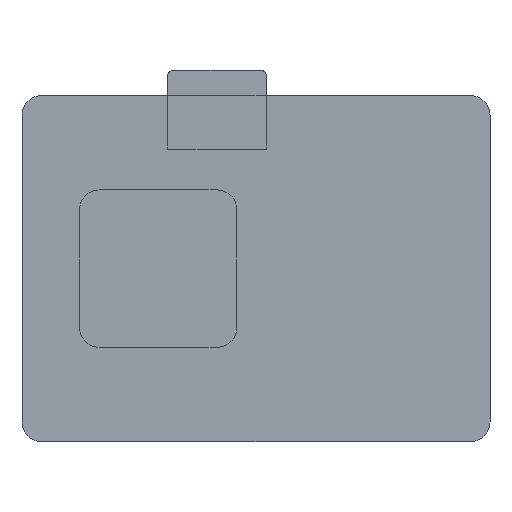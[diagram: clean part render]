
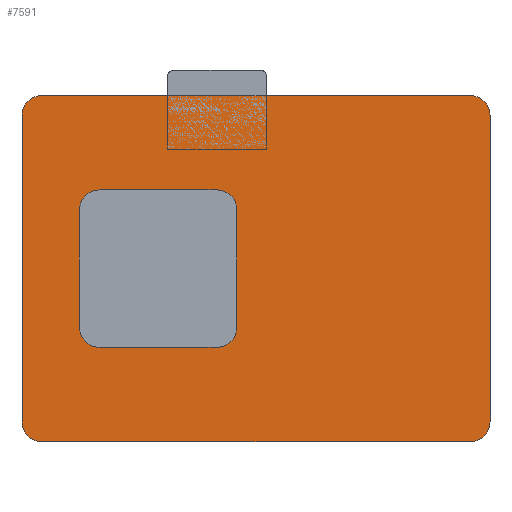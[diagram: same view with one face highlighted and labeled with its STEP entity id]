
A CAD part, front view. The second image highlights one B-rep face of the part: STEP entity #7591.
In plain terms, the highlighted planar face has unit normal (0, -1, 0).
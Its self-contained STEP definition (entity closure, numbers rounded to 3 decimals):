
#37 = DIRECTION ( 'NONE',  ( 0., 0., -1. ) ) ;
#269 = EDGE_CURVE ( 'NONE', #2303, #7224, #4383, .T. ) ;
#280 = CARTESIAN_POINT ( 'NONE',  ( 100.838, 76.5, -55.88 ) ) ;
#899 = CARTESIAN_POINT ( 'NONE',  ( 107.188, 76.5, -55.88 ) ) ;
#995 = DIRECTION ( 'NONE',  ( -1., 0., 0. ) ) ;
#1032 = LINE ( 'NONE', #7879, #2792 ) ;
#1044 = LINE ( 'NONE', #12854, #8911 ) ;
#1047 = EDGE_CURVE ( 'NONE', #2303, #11821, #4273, .T. ) ;
#1079 = CIRCLE ( 'NONE', #7950, 6.35 ) ;
#1392 = CARTESIAN_POINT ( 'NONE',  ( -43.942, 76.5, 55.88 ) ) ;
#1437 = CARTESIAN_POINT ( 'NONE',  ( 25.4, 76.5, -25.4 ) ) ;
#1664 = EDGE_CURVE ( 'NONE', #5129, #11866, #6420, .T. ) ;
#1853 = AXIS2_PLACEMENT_3D ( 'NONE', #1392, #5557, #12542 ) ;
#1874 = DIRECTION ( 'NONE',  ( 1., 0., 0. ) ) ;
#1881 = EDGE_LOOP ( 'NONE', ( #12637, #8895, #12671, #5649, #2652, #9922, #11710, #12011 ) ) ;
#1950 = DIRECTION ( 'NONE',  ( -1., 0., 0. ) ) ;
#2066 = DIRECTION ( 'NONE',  ( 0., -1., 0. ) ) ;
#2100 = LINE ( 'NONE', #9930, #12462 ) ;
#2245 = AXIS2_PLACEMENT_3D ( 'NONE', #5894, #12817, #2704 ) ;
#2303 = VERTEX_POINT ( 'NONE', #9313 ) ;
#2652 = ORIENTED_EDGE ( 'NONE', *, *, #7090, .F. ) ;
#2704 = DIRECTION ( 'NONE',  ( -1., 0., 0. ) ) ;
#2792 = VECTOR ( 'NONE', #1950, 1000. ) ;
#2801 = CARTESIAN_POINT ( 'NONE',  ( 107.188, 76.5, 49.53 ) ) ;
#2820 = AXIS2_PLACEMENT_3D ( 'NONE', #10880, #11847, #10939 ) ;
#2864 = DIRECTION ( 'NONE',  ( -1., 0., 0. ) ) ;
#2940 = VECTOR ( 'NONE', #2864, 1000. ) ;
#3034 = LINE ( 'NONE', #9909, #8788 ) ;
#3134 = DIRECTION ( 'NONE',  ( 0., -1., 0. ) ) ;
#3266 = CIRCLE ( 'NONE', #6800, 6.35 ) ;
#3285 = FACE_BOUND ( 'NONE', #1881, .T. ) ;
#3467 = CARTESIAN_POINT ( 'NONE',  ( 100.838, 76.5, 55.88 ) ) ;
#3697 = AXIS2_PLACEMENT_3D ( 'NONE', #8125, #2066, #12190 ) ;
#3738 = EDGE_CURVE ( 'NONE', #4841, #4831, #1032, .T. ) ;
#3886 = DIRECTION ( 'NONE',  ( 0., 0., 1. ) ) ;
#3921 = DIRECTION ( 'NONE',  ( -1., 0., 0. ) ) ;
#4009 = CARTESIAN_POINT ( 'NONE',  ( -37.592, 76.5, 55.88 ) ) ;
#4087 = VERTEX_POINT ( 'NONE', #6227 ) ;
#4140 = CARTESIAN_POINT ( 'NONE',  ( -43.942, 76.5, 49.53 ) ) ;
#4273 = CIRCLE ( 'NONE', #7201, 6.35 ) ;
#4383 = LINE ( 'NONE', #10247, #7751 ) ;
#4447 = CARTESIAN_POINT ( 'NONE',  ( 25.4, 76.5, 19.05 ) ) ;
#4516 = EDGE_CURVE ( 'NONE', #4087, #4831, #4662, .T. ) ;
#4662 = CIRCLE ( 'NONE', #2820, 6.35 ) ;
#4767 = VERTEX_POINT ( 'NONE', #4447 ) ;
#4789 = CARTESIAN_POINT ( 'NONE',  ( 19.05, 76.5, 19.05 ) ) ;
#4831 = VERTEX_POINT ( 'NONE', #12684 ) ;
#4841 = VERTEX_POINT ( 'NONE', #10623 ) ;
#5053 = CARTESIAN_POINT ( 'NONE',  ( 25.4, 76.5, -19.05 ) ) ;
#5129 = VERTEX_POINT ( 'NONE', #2801 ) ;
#5211 = CARTESIAN_POINT ( 'NONE',  ( 100.838, 76.5, -49.53 ) ) ;
#5434 = DIRECTION ( 'NONE',  ( 0., 0., -1. ) ) ;
#5557 = DIRECTION ( 'NONE',  ( 0., -1., 0. ) ) ;
#5649 = ORIENTED_EDGE ( 'NONE', *, *, #11274, .T. ) ;
#5894 = CARTESIAN_POINT ( 'NONE',  ( 19.05, 76.5, -19.05 ) ) ;
#6010 = EDGE_CURVE ( 'NONE', #9588, #10903, #7174, .T. ) ;
#6227 = CARTESIAN_POINT ( 'NONE',  ( -25.4, 76.5, 19.05 ) ) ;
#6339 = CARTESIAN_POINT ( 'NONE',  ( 19.05, 76.5, -25.4 ) ) ;
#6394 = DIRECTION ( 'NONE',  ( 1., 0., 0. ) ) ;
#6420 = LINE ( 'NONE', #9437, #7052 ) ;
#6424 = CIRCLE ( 'NONE', #3697, 6.35 ) ;
#6425 = CARTESIAN_POINT ( 'NONE',  ( -37.592, 76.5, -55.88 ) ) ;
#6444 = EDGE_CURVE ( 'NONE', #7301, #10903, #10188, .T. ) ;
#6485 = EDGE_CURVE ( 'NONE', #11214, #7224, #3266, .T. ) ;
#6800 = AXIS2_PLACEMENT_3D ( 'NONE', #8247, #12188, #10040 ) ;
#6889 = DIRECTION ( 'NONE',  ( -1., 0., 0. ) ) ;
#7006 = EDGE_CURVE ( 'NONE', #4087, #11049, #2100, .T. ) ;
#7052 = VECTOR ( 'NONE', #5434, 1000. ) ;
#7090 = EDGE_CURVE ( 'NONE', #7301, #4767, #1044, .T. ) ;
#7174 = LINE ( 'NONE', #1437, #10369 ) ;
#7201 = AXIS2_PLACEMENT_3D ( 'NONE', #8155, #3134, #11293 ) ;
#7222 = VERTEX_POINT ( 'NONE', #280 ) ;
#7224 = VERTEX_POINT ( 'NONE', #4140 ) ;
#7246 = AXIS2_PLACEMENT_3D ( 'NONE', #8766, #11904, #3921 ) ;
#7297 = EDGE_LOOP ( 'NONE', ( #12726, #9050, #11930, #7427, #9829, #11544, #9526, #8358 ) ) ;
#7301 = VERTEX_POINT ( 'NONE', #5053 ) ;
#7423 = CARTESIAN_POINT ( 'NONE',  ( -25.4, 76.5, -19.05 ) ) ;
#7427 = ORIENTED_EDGE ( 'NONE', *, *, #7797, .T. ) ;
#7495 = EDGE_CURVE ( 'NONE', #9588, #11049, #7889, .T. ) ;
#7519 = EDGE_CURVE ( 'NONE', #5129, #7607, #6424, .T. ) ;
#7591 = ADVANCED_FACE ( 'NONE', ( #12247, #3285 ), #11976, .T. ) ;
#7607 = VERTEX_POINT ( 'NONE', #3467 ) ;
#7751 = VECTOR ( 'NONE', #11194, 1000. ) ;
#7797 = EDGE_CURVE ( 'NONE', #7222, #11866, #12623, .T. ) ;
#7879 = CARTESIAN_POINT ( 'NONE',  ( 25.4, 76.5, 25.4 ) ) ;
#7889 = CIRCLE ( 'NONE', #7246, 6.35 ) ;
#7950 = AXIS2_PLACEMENT_3D ( 'NONE', #4789, #9061, #6889 ) ;
#8125 = CARTESIAN_POINT ( 'NONE',  ( 100.838, 76.5, 49.53 ) ) ;
#8155 = CARTESIAN_POINT ( 'NONE',  ( -37.592, 76.5, -49.53 ) ) ;
#8225 = CARTESIAN_POINT ( 'NONE',  ( -19.05, 76.5, -25.4 ) ) ;
#8247 = CARTESIAN_POINT ( 'NONE',  ( -37.592, 76.5, 49.53 ) ) ;
#8355 = DIRECTION ( 'NONE',  ( 0., -1., 0. ) ) ;
#8358 = ORIENTED_EDGE ( 'NONE', *, *, #6485, .T. ) ;
#8766 = CARTESIAN_POINT ( 'NONE',  ( -19.05, 76.5, -19.05 ) ) ;
#8788 = VECTOR ( 'NONE', #1874, 1000. ) ;
#8895 = ORIENTED_EDGE ( 'NONE', *, *, #4516, .T. ) ;
#8911 = VECTOR ( 'NONE', #3886, 1000. ) ;
#9050 = ORIENTED_EDGE ( 'NONE', *, *, #1047, .T. ) ;
#9061 = DIRECTION ( 'NONE',  ( 0., 1., 0. ) ) ;
#9313 = CARTESIAN_POINT ( 'NONE',  ( -43.942, 76.5, -49.53 ) ) ;
#9437 = CARTESIAN_POINT ( 'NONE',  ( 107.188, 76.5, 55.88 ) ) ;
#9526 = ORIENTED_EDGE ( 'NONE', *, *, #11680, .F. ) ;
#9569 = CARTESIAN_POINT ( 'NONE',  ( 107.188, 76.5, -49.53 ) ) ;
#9588 = VERTEX_POINT ( 'NONE', #8225 ) ;
#9829 = ORIENTED_EDGE ( 'NONE', *, *, #1664, .F. ) ;
#9909 = CARTESIAN_POINT ( 'NONE',  ( 107.188, 76.5, 55.88 ) ) ;
#9922 = ORIENTED_EDGE ( 'NONE', *, *, #6444, .T. ) ;
#9930 = CARTESIAN_POINT ( 'NONE',  ( -25.4, 76.5, 25.4 ) ) ;
#10040 = DIRECTION ( 'NONE',  ( -1., 0., 0. ) ) ;
#10132 = LINE ( 'NONE', #899, #2940 ) ;
#10188 = CIRCLE ( 'NONE', #2245, 6.35 ) ;
#10247 = CARTESIAN_POINT ( 'NONE',  ( -43.942, 76.5, 55.88 ) ) ;
#10369 = VECTOR ( 'NONE', #6394, 1000. ) ;
#10623 = CARTESIAN_POINT ( 'NONE',  ( 19.05, 76.5, 25.4 ) ) ;
#10880 = CARTESIAN_POINT ( 'NONE',  ( -19.05, 76.5, 19.05 ) ) ;
#10903 = VERTEX_POINT ( 'NONE', #6339 ) ;
#10939 = DIRECTION ( 'NONE',  ( -1., 0., 0. ) ) ;
#11049 = VERTEX_POINT ( 'NONE', #7423 ) ;
#11194 = DIRECTION ( 'NONE',  ( 0., 0., 1. ) ) ;
#11214 = VERTEX_POINT ( 'NONE', #4009 ) ;
#11260 = EDGE_CURVE ( 'NONE', #7222, #11821, #10132, .T. ) ;
#11274 = EDGE_CURVE ( 'NONE', #4841, #4767, #1079, .T. ) ;
#11293 = DIRECTION ( 'NONE',  ( -1., 0., 0. ) ) ;
#11544 = ORIENTED_EDGE ( 'NONE', *, *, #7519, .T. ) ;
#11680 = EDGE_CURVE ( 'NONE', #11214, #7607, #3034, .T. ) ;
#11710 = ORIENTED_EDGE ( 'NONE', *, *, #6010, .F. ) ;
#11788 = AXIS2_PLACEMENT_3D ( 'NONE', #5211, #8355, #995 ) ;
#11821 = VERTEX_POINT ( 'NONE', #6425 ) ;
#11847 = DIRECTION ( 'NONE',  ( 0., 1., 0. ) ) ;
#11866 = VERTEX_POINT ( 'NONE', #9569 ) ;
#11904 = DIRECTION ( 'NONE',  ( 0., 1., 0. ) ) ;
#11930 = ORIENTED_EDGE ( 'NONE', *, *, #11260, .F. ) ;
#11976 = PLANE ( 'NONE',  #1853 ) ;
#12011 = ORIENTED_EDGE ( 'NONE', *, *, #7495, .T. ) ;
#12188 = DIRECTION ( 'NONE',  ( 0., -1., 0. ) ) ;
#12190 = DIRECTION ( 'NONE',  ( -1., 0., 0. ) ) ;
#12247 = FACE_OUTER_BOUND ( 'NONE', #7297, .T. ) ;
#12462 = VECTOR ( 'NONE', #37, 1000. ) ;
#12542 = DIRECTION ( 'NONE',  ( -1., 0., 0. ) ) ;
#12623 = CIRCLE ( 'NONE', #11788, 6.35 ) ;
#12637 = ORIENTED_EDGE ( 'NONE', *, *, #7006, .F. ) ;
#12671 = ORIENTED_EDGE ( 'NONE', *, *, #3738, .F. ) ;
#12684 = CARTESIAN_POINT ( 'NONE',  ( -19.05, 76.5, 25.4 ) ) ;
#12726 = ORIENTED_EDGE ( 'NONE', *, *, #269, .F. ) ;
#12817 = DIRECTION ( 'NONE',  ( 0., 1., 0. ) ) ;
#12854 = CARTESIAN_POINT ( 'NONE',  ( 25.4, 76.5, 25.4 ) ) ;
